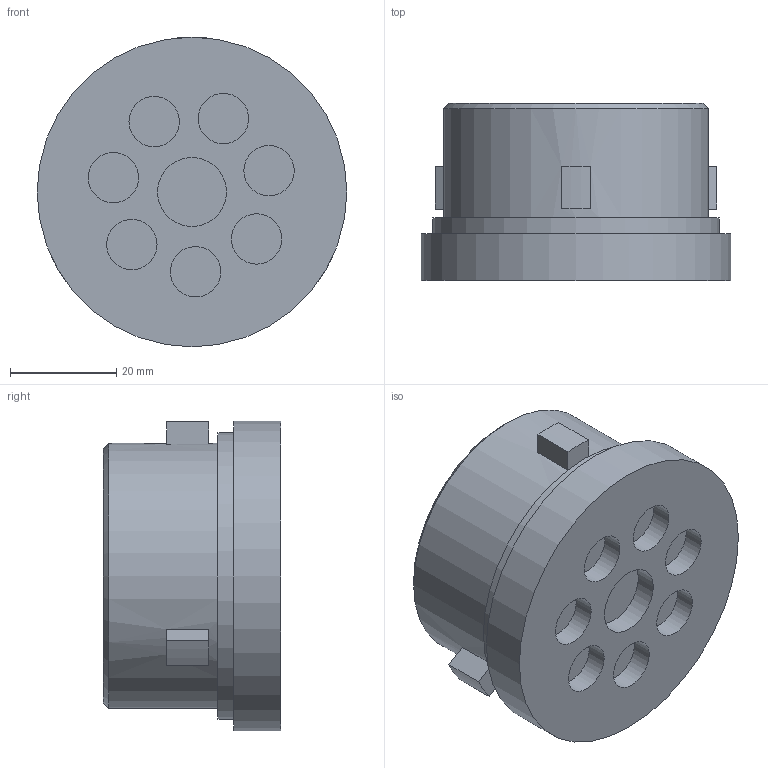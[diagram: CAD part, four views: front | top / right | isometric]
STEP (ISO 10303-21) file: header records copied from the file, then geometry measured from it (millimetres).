
FILE_DESCRIPTION( ( 'STEP AP214' ), '1' );
FILE_NAME( 'p:/temp/worker_134/temp/exporttempdir_1924_246_V89XE/format_0/CEPR5008(0).stp', '2021-03-15T14:31:13', ( 'License CC BY-ND 4.0' ), ( 'CADENAS' ), ' ', 'PARTsolutions', ' ' );
FILE_SCHEMA( ( 'AUTOMOTIVE_DESIGN { 1 0 10303 214 1 1 1 1 }' ) );
Length unit declared in the file: millimetre
Products named in the file (1): _CEPR5008(0)
Bounding box: 58.4 x 33.4 x 58.4 mm (x, y, z)
Volume: 34347.2 mm3; surface area: 16588.7 mm2
Topology: 1 solids, 1 shells, 61 faces, 112 edges, 77 vertices
Faces by surface type: plane 35, cylinder 23, cone 3
Full cylindrical faces by diameter (mm): 9.5 x7, 10.5 x7, 13 x1, 14 x1, 45 x1, 50 x1, 54 x1, 58.4 x1
Entity records: 1856 total; most frequent: DIRECTION 262, CARTESIAN_POINT 212, ORIENTED_EDGE 162, AXIS2_PLACEMENT_3D 119, EDGE_LOOP 108, FACE_OUTER_BOUND 81, EDGE_CURVE 81, VERTEX_POINT 69
